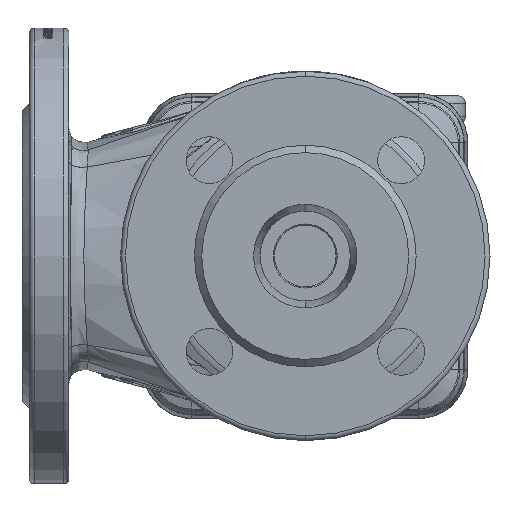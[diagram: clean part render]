
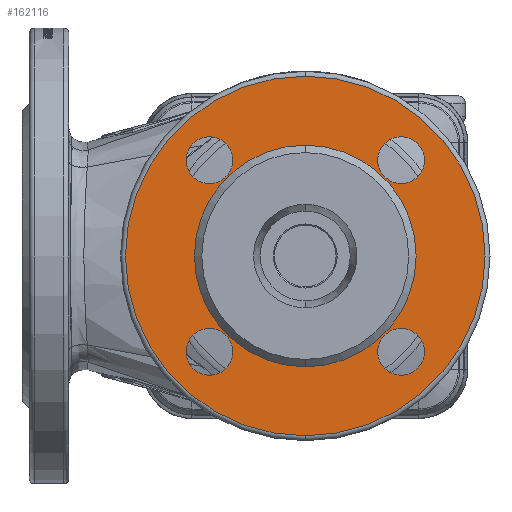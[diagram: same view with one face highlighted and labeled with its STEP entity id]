
A CAD part, front view. The second image highlights one B-rep face of the part: STEP entity #162116.
In plain terms, the highlighted planar face has unit normal (0, -1, 0).
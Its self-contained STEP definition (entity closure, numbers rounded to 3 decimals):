
#1129 = AXIS2_PLACEMENT_3D ( 'NONE', #27537, #146020, #131630 ) ;
#1758 = FACE_BOUND ( 'NONE', #192382, .T. ) ;
#6545 = VERTEX_POINT ( 'NONE', #131111 ) ;
#6632 = CARTESIAN_POINT ( 'NONE',  ( 0., -137., 0. ) ) ;
#8788 = FACE_OUTER_BOUND ( 'NONE', #101640, .T. ) ;
#17479 = DIRECTION ( 'NONE',  ( 0., 0., -1. ) ) ;
#19027 = DIRECTION ( 'NONE',  ( 0., -1., 0. ) ) ;
#20999 = DIRECTION ( 'NONE',  ( 0., -1., 0. ) ) ;
#21076 = DIRECTION ( 'NONE',  ( 0., 0., -1. ) ) ;
#22978 = EDGE_CURVE ( 'NONE', #6545, #136847, #109314, .T. ) ;
#25360 = CARTESIAN_POINT ( 'NONE',  ( -38.891, -137., -48.391 ) ) ;
#26367 = ORIENTED_EDGE ( 'NONE', *, *, #162784, .F. ) ;
#26669 = VERTEX_POINT ( 'NONE', #188043 ) ;
#27537 = CARTESIAN_POINT ( 'NONE',  ( 0., -137., 0. ) ) ;
#29154 = AXIS2_PLACEMENT_3D ( 'NONE', #106890, #19027, #181951 ) ;
#29294 = AXIS2_PLACEMENT_3D ( 'NONE', #153939, #20999, #169572 ) ;
#31036 = CARTESIAN_POINT ( 'NONE',  ( 38.891, -137., -29.391 ) ) ;
#32199 = AXIS2_PLACEMENT_3D ( 'NONE', #182298, #180372, #17479 ) ;
#34096 = AXIS2_PLACEMENT_3D ( 'NONE', #6632, #110062, #97082 ) ;
#36086 = EDGE_CURVE ( 'NONE', #56519, #58046, #66195, .T. ) ;
#38285 = DIRECTION ( 'NONE',  ( 0., 0., -1. ) ) ;
#41582 = CIRCLE ( 'NONE', #187588, 9.5 ) ;
#42905 = VERTEX_POINT ( 'NONE', #49357 ) ;
#44924 = CIRCLE ( 'NONE', #29154, 9.5 ) ;
#48276 = ORIENTED_EDGE ( 'NONE', *, *, #163660, .F. ) ;
#49357 = CARTESIAN_POINT ( 'NONE',  ( -38.891, -137., 29.391 ) ) ;
#49664 = PLANE ( 'NONE',  #29294 ) ;
#52636 = DIRECTION ( 'NONE',  ( 0., -1., 0. ) ) ;
#53296 = EDGE_LOOP ( 'NONE', ( #133323, #161649 ) ) ;
#54608 = EDGE_CURVE ( 'NONE', #67386, #187678, #105684, .T. ) ;
#56519 = VERTEX_POINT ( 'NONE', #166917 ) ;
#56633 = EDGE_CURVE ( 'NONE', #188194, #177480, #179646, .T. ) ;
#58046 = VERTEX_POINT ( 'NONE', #101924 ) ;
#60738 = AXIS2_PLACEMENT_3D ( 'NONE', #182015, #92697, #79672 ) ;
#66195 = CIRCLE ( 'NONE', #86937, 9.5 ) ;
#66486 = EDGE_CURVE ( 'NONE', #58046, #56519, #130639, .T. ) ;
#67386 = VERTEX_POINT ( 'NONE', #124872 ) ;
#68209 = ORIENTED_EDGE ( 'NONE', *, *, #36086, .F. ) ;
#69695 = EDGE_LOOP ( 'NONE', ( #111378, #161764 ) ) ;
#75076 = DIRECTION ( 'NONE',  ( 0., -1., 0. ) ) ;
#79672 = DIRECTION ( 'NONE',  ( 0., 0., -1. ) ) ;
#80479 = DIRECTION ( 'NONE',  ( 0., 1., 0. ) ) ;
#81066 = FACE_BOUND ( 'NONE', #140042, .T. ) ;
#81257 = AXIS2_PLACEMENT_3D ( 'NONE', #140975, #80479, #184123 ) ;
#82503 = CARTESIAN_POINT ( 'NONE',  ( 0., -137., -45. ) ) ;
#86937 = AXIS2_PLACEMENT_3D ( 'NONE', #177412, #151283, #96738 ) ;
#88785 = DIRECTION ( 'NONE',  ( 0., 0., -1. ) ) ;
#91662 = CARTESIAN_POINT ( 'NONE',  ( 0., -137., 0. ) ) ;
#92697 = DIRECTION ( 'NONE',  ( 0., -1., 0. ) ) ;
#93853 = CIRCLE ( 'NONE', #1129, 45. ) ;
#96064 = CARTESIAN_POINT ( 'NONE',  ( 0., -137., 73. ) ) ;
#96738 = DIRECTION ( 'NONE',  ( 0., 0., -1. ) ) ;
#97082 = DIRECTION ( 'NONE',  ( 0., 0., 1. ) ) ;
#99236 = ORIENTED_EDGE ( 'NONE', *, *, #140896, .F. ) ;
#101640 = EDGE_LOOP ( 'NONE', ( #26367, #187587 ) ) ;
#101924 = CARTESIAN_POINT ( 'NONE',  ( 38.891, -137., 48.391 ) ) ;
#104486 = VERTEX_POINT ( 'NONE', #31036 ) ;
#105522 = CARTESIAN_POINT ( 'NONE',  ( -38.891, -137., 48.391 ) ) ;
#105684 = CIRCLE ( 'NONE', #143708, 9.5 ) ;
#106890 = CARTESIAN_POINT ( 'NONE',  ( 38.891, -137., -38.891 ) ) ;
#109314 = CIRCLE ( 'NONE', #81257, 73. ) ;
#110062 = DIRECTION ( 'NONE',  ( 0., 1., 0. ) ) ;
#110837 = DIRECTION ( 'NONE',  ( 0., -1., 0. ) ) ;
#111378 = ORIENTED_EDGE ( 'NONE', *, *, #175591, .T. ) ;
#116983 = VERTEX_POINT ( 'NONE', #105522 ) ;
#117671 = EDGE_LOOP ( 'NONE', ( #126749, #99236 ) ) ;
#119393 = EDGE_CURVE ( 'NONE', #116983, #42905, #181467, .T. ) ;
#120072 = CIRCLE ( 'NONE', #32199, 9.5 ) ;
#120556 = CARTESIAN_POINT ( 'NONE',  ( 38.891, -137., 38.891 ) ) ;
#123746 = AXIS2_PLACEMENT_3D ( 'NONE', #120556, #75076, #88785 ) ;
#124194 = DIRECTION ( 'NONE',  ( 0., 0., -1. ) ) ;
#124872 = CARTESIAN_POINT ( 'NONE',  ( -38.891, -137., -29.391 ) ) ;
#126749 = ORIENTED_EDGE ( 'NONE', *, *, #186843, .F. ) ;
#129956 = FACE_BOUND ( 'NONE', #53296, .T. ) ;
#130639 = CIRCLE ( 'NONE', #123746, 9.5 ) ;
#131111 = CARTESIAN_POINT ( 'NONE',  ( 0., -137., -73. ) ) ;
#131630 = DIRECTION ( 'NONE',  ( 0., 0., 1. ) ) ;
#132010 = CIRCLE ( 'NONE', #183177, 73. ) ;
#133323 = ORIENTED_EDGE ( 'NONE', *, *, #119393, .F. ) ;
#136847 = VERTEX_POINT ( 'NONE', #96064 ) ;
#139127 = DIRECTION ( 'NONE',  ( 0., 0., 1. ) ) ;
#140042 = EDGE_LOOP ( 'NONE', ( #140408, #48276 ) ) ;
#140408 = ORIENTED_EDGE ( 'NONE', *, *, #54608, .F. ) ;
#140489 = CARTESIAN_POINT ( 'NONE',  ( -38.891, -137., -38.891 ) ) ;
#140896 = EDGE_CURVE ( 'NONE', #26669, #104486, #187534, .T. ) ;
#140975 = CARTESIAN_POINT ( 'NONE',  ( 0., -137., 0. ) ) ;
#141150 = DIRECTION ( 'NONE',  ( 0., -1., 0. ) ) ;
#143708 = AXIS2_PLACEMENT_3D ( 'NONE', #140489, #52636, #38285 ) ;
#146020 = DIRECTION ( 'NONE',  ( 0., 1., 0. ) ) ;
#148546 = CARTESIAN_POINT ( 'NONE',  ( 0., -137., 45. ) ) ;
#150971 = FACE_BOUND ( 'NONE', #117671, .T. ) ;
#151283 = DIRECTION ( 'NONE',  ( 0., -1., 0. ) ) ;
#153567 = DIRECTION ( 'NONE',  ( 0., 1., 0. ) ) ;
#153939 = CARTESIAN_POINT ( 'NONE',  ( -45., -137., 0. ) ) ;
#156227 = CARTESIAN_POINT ( 'NONE',  ( -38.891, -137., 38.891 ) ) ;
#160350 = FACE_BOUND ( 'NONE', #69695, .T. ) ;
#161649 = ORIENTED_EDGE ( 'NONE', *, *, #185746, .F. ) ;
#161764 = ORIENTED_EDGE ( 'NONE', *, *, #56633, .T. ) ;
#162116 = ADVANCED_FACE ( 'NONE', ( #129956, #150971, #81066, #1758, #160350, #8788 ), #49664, .T. ) ;
#162671 = AXIS2_PLACEMENT_3D ( 'NONE', #169642, #110837, #21076 ) ;
#162784 = EDGE_CURVE ( 'NONE', #136847, #6545, #132010, .T. ) ;
#163660 = EDGE_CURVE ( 'NONE', #187678, #67386, #120072, .T. ) ;
#166917 = CARTESIAN_POINT ( 'NONE',  ( 38.891, -137., 29.391 ) ) ;
#169572 = DIRECTION ( 'NONE',  ( 0., 0., -1. ) ) ;
#169642 = CARTESIAN_POINT ( 'NONE',  ( 38.891, -137., -38.891 ) ) ;
#175591 = EDGE_CURVE ( 'NONE', #177480, #188194, #93853, .T. ) ;
#177412 = CARTESIAN_POINT ( 'NONE',  ( 38.891, -137., 38.891 ) ) ;
#177480 = VERTEX_POINT ( 'NONE', #148546 ) ;
#179646 = CIRCLE ( 'NONE', #34096, 45. ) ;
#180372 = DIRECTION ( 'NONE',  ( 0., -1., 0. ) ) ;
#181467 = CIRCLE ( 'NONE', #60738, 9.5 ) ;
#181951 = DIRECTION ( 'NONE',  ( 0., 0., -1. ) ) ;
#182015 = CARTESIAN_POINT ( 'NONE',  ( -38.891, -137., 38.891 ) ) ;
#182298 = CARTESIAN_POINT ( 'NONE',  ( -38.891, -137., -38.891 ) ) ;
#183177 = AXIS2_PLACEMENT_3D ( 'NONE', #91662, #153567, #139127 ) ;
#184123 = DIRECTION ( 'NONE',  ( 0., 0., 1. ) ) ;
#184233 = ORIENTED_EDGE ( 'NONE', *, *, #66486, .F. ) ;
#185746 = EDGE_CURVE ( 'NONE', #42905, #116983, #41582, .T. ) ;
#186843 = EDGE_CURVE ( 'NONE', #104486, #26669, #44924, .T. ) ;
#187534 = CIRCLE ( 'NONE', #162671, 9.5 ) ;
#187587 = ORIENTED_EDGE ( 'NONE', *, *, #22978, .F. ) ;
#187588 = AXIS2_PLACEMENT_3D ( 'NONE', #156227, #141150, #124194 ) ;
#187678 = VERTEX_POINT ( 'NONE', #25360 ) ;
#188043 = CARTESIAN_POINT ( 'NONE',  ( 38.891, -137., -48.391 ) ) ;
#188194 = VERTEX_POINT ( 'NONE', #82503 ) ;
#192382 = EDGE_LOOP ( 'NONE', ( #184233, #68209 ) ) ;
